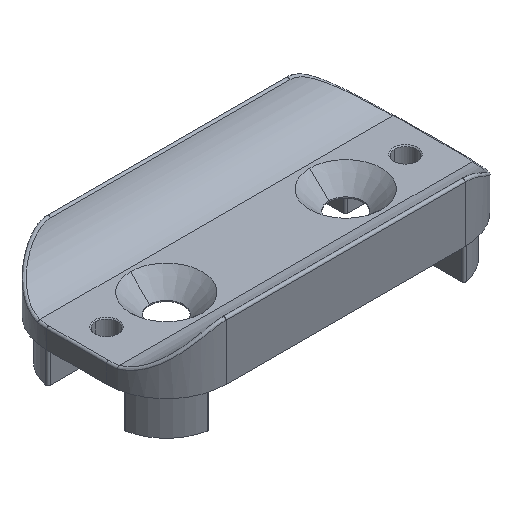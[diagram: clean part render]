
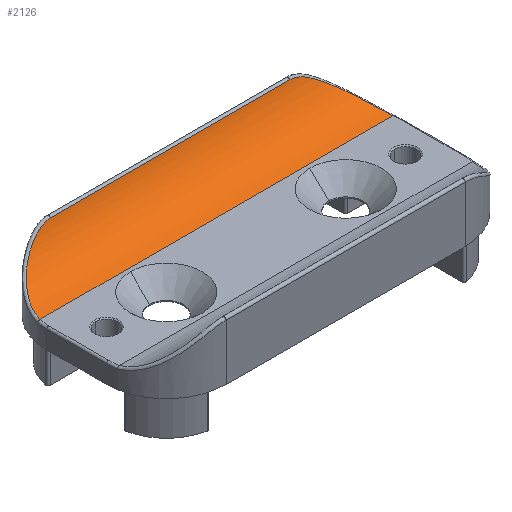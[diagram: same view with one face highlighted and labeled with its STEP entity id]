
A CAD part, isometric view. The second image highlights one B-rep face of the part: STEP entity #2126.
In plain terms, the highlighted cylindrical face has radius 15.2 mm (diameter 30.4 mm), a partial arc.
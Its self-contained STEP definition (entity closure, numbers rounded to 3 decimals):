
#218 = CARTESIAN_POINT ( 'NONE',  ( -67.5, 21.538, 14.172 ) ) ;
#219 = DIRECTION ( 'NONE',  ( -1., 0., 0. ) ) ;
#257 = AXIS2_PLACEMENT_3D ( 'NONE', #1313, #1315, #1319 ) ;
#522 = CARTESIAN_POINT ( 'NONE',  ( 7.5, 21.538, 14.172 ) ) ;
#524 = CARTESIAN_POINT ( 'NONE',  ( -52.5, 21.538, 14.172 ) ) ;
#540 = CARTESIAN_POINT ( 'NONE',  ( -66.776, 9.958, 5. ) ) ;
#590 = CARTESIAN_POINT ( 'NONE',  ( 21.776, 9.958, 5. ) ) ;
#886 = FACE_OUTER_BOUND ( 'NONE', #1553, .T. ) ;
#923 = VECTOR ( 'NONE', #219, 1000. ) ;
#925 = LINE ( 'NONE', #218, #923 ) ;
#1039 = VECTOR ( 'NONE', #2871, 1000. ) ;
#1047 = LINE ( 'NONE', #2827, #1039 ) ;
#1313 = CARTESIAN_POINT ( 'NONE',  ( -67.5, 7.5, 20. ) ) ;
#1315 = DIRECTION ( 'NONE',  ( 1., 0., 0. ) ) ;
#1319 = DIRECTION ( 'NONE',  ( 0., 0., -1. ) ) ;
#1349 = B_SPLINE_CURVE_WITH_KNOTS ( 'NONE', 3,
 ( #2314, #2302, #2295, #2294, #2293, #2291, #2290, #2289, #2288, #2287, #2286, #2284, #2283, #2282, #2281, #2280, #2278, #2277, #2276, #2274, #2273, #2272, #2271, #2269, #2268, #2266, #2264, #2263, #2262, #2261 ),
 .UNSPECIFIED., .F., .F.,
 ( 4, 2, 2, 2, 2, 2, 2, 2, 2, 2, 2, 2, 2, 2, 4 ),
 ( 0., 0.001, 0.002, 0.003, 0.004, 0.006, 0.007, 0.008, 0.011, 0.012, 0.014, 0.017, 0.018, 0.019, 0.022 ),
 .UNSPECIFIED. ) ;
#1354 = B_SPLINE_CURVE_WITH_KNOTS ( 'NONE', 3,
 ( #2820, #2819, #2813, #2812, #2811, #2810, #2809, #2808, #2807, #2806, #2805, #2804, #2803, #2802, #2801, #2800, #2799, #2798, #2797, #2796, #2795, #2794, #2793, #2792, #2791, #2790, #2789, #2788, #2787, #2786, #2785, #2784 ),
 .UNSPECIFIED., .F., .F.,
 ( 4, 2, 2, 2, 2, 2, 2, 2, 2, 2, 2, 2, 2, 2, 2, 4 ),
 ( 0., 0.001, 0.003, 0.004, 0.006, 0.008, 0.01, 0.011, 0.014, 0.015, 0.017, 0.018, 0.02, 0.02, 0.021, 0.022 ),
 .UNSPECIFIED. ) ;
#1553 = EDGE_LOOP ( 'NONE', ( #2462, #2457, #2459, #2461 ) ) ;
#1705 = VERTEX_POINT ( 'NONE', #590 ) ;
#1770 = VERTEX_POINT ( 'NONE', #540 ) ;
#1801 = VERTEX_POINT ( 'NONE', #522 ) ;
#1804 = VERTEX_POINT ( 'NONE', #524 ) ;
#2012 = EDGE_CURVE ( 'NONE', #1770, #1705, #1047, .T. ) ;
#2041 = EDGE_CURVE ( 'NONE', #1705, #1801, #1354, .T. ) ;
#2071 = EDGE_CURVE ( 'NONE', #1804, #1770, #1349, .T. ) ;
#2100 = EDGE_CURVE ( 'NONE', #1801, #1804, #925, .T. ) ;
#2126 = ADVANCED_FACE ( 'NONE', ( #886 ), #2724, .F. ) ;
#2261 = CARTESIAN_POINT ( 'NONE',  ( -66.776, 9.958, 5. ) ) ;
#2262 = CARTESIAN_POINT ( 'NONE',  ( -66.609, 10.866, 5.149 ) ) ;
#2263 = CARTESIAN_POINT ( 'NONE',  ( -66.358, 11.723, 5.373 ) ) ;
#2264 = CARTESIAN_POINT ( 'NONE',  ( -65.874, 12.942, 5.801 ) ) ;
#2266 = CARTESIAN_POINT ( 'NONE',  ( -65.694, 13.338, 5.959 ) ) ;
#2268 = CARTESIAN_POINT ( 'NONE',  ( -65.301, 14.108, 6.305 ) ) ;
#2269 = CARTESIAN_POINT ( 'NONE',  ( -65.089, 14.478, 6.491 ) ) ;
#2271 = CARTESIAN_POINT ( 'NONE',  ( -64.417, 15.54, 7.075 ) ) ;
#2272 = CARTESIAN_POINT ( 'NONE',  ( -63.921, 16.185, 7.503 ) ) ;
#2273 = CARTESIAN_POINT ( 'NONE',  ( -63.11, 17.076, 8.19 ) ) ;
#2274 = CARTESIAN_POINT ( 'NONE',  ( -62.828, 17.361, 8.427 ) ) ;
#2276 = CARTESIAN_POINT ( 'NONE',  ( -62.247, 17.901, 8.91 ) ) ;
#2277 = CARTESIAN_POINT ( 'NONE',  ( -61.949, 18.155, 9.154 ) ) ;
#2278 = CARTESIAN_POINT ( 'NONE',  ( -61.034, 18.875, 9.895 ) ) ;
#2280 = CARTESIAN_POINT ( 'NONE',  ( -60.394, 19.299, 10.398 ) ) ;
#2281 = CARTESIAN_POINT ( 'NONE',  ( -59.384, 19.861, 11.149 ) ) ;
#2282 = CARTESIAN_POINT ( 'NONE',  ( -59.039, 20.036, 11.398 ) ) ;
#2283 = CARTESIAN_POINT ( 'NONE',  ( -58.328, 20.36, 11.892 ) ) ;
#2284 = CARTESIAN_POINT ( 'NONE',  ( -57.96, 20.511, 12.136 ) ) ;
#2286 = CARTESIAN_POINT ( 'NONE',  ( -57.209, 20.783, 12.606 ) ) ;
#2287 = CARTESIAN_POINT ( 'NONE',  ( -56.824, 20.905, 12.831 ) ) ;
#2288 = CARTESIAN_POINT ( 'NONE',  ( -56.031, 21.122, 13.251 ) ) ;
#2289 = CARTESIAN_POINT ( 'NONE',  ( -55.622, 21.215, 13.445 ) ) ;
#2290 = CARTESIAN_POINT ( 'NONE',  ( -54.983, 21.333, 13.698 ) ) ;
#2291 = CARTESIAN_POINT ( 'NONE',  ( -54.764, 21.368, 13.776 ) ) ;
#2293 = CARTESIAN_POINT ( 'NONE',  ( -54.324, 21.428, 13.913 ) ) ;
#2294 = CARTESIAN_POINT ( 'NONE',  ( -54.102, 21.454, 13.973 ) ) ;
#2295 = CARTESIAN_POINT ( 'NONE',  ( -53.428, 21.516, 14.118 ) ) ;
#2302 = CARTESIAN_POINT ( 'NONE',  ( -52.97, 21.538, 14.172 ) ) ;
#2314 = CARTESIAN_POINT ( 'NONE',  ( -52.5, 21.538, 14.172 ) ) ;
#2457 = ORIENTED_EDGE ( 'NONE', *, *, #2071, .T. ) ;
#2459 = ORIENTED_EDGE ( 'NONE', *, *, #2012, .T. ) ;
#2461 = ORIENTED_EDGE ( 'NONE', *, *, #2041, .T. ) ;
#2462 = ORIENTED_EDGE ( 'NONE', *, *, #2100, .T. ) ;
#2724 = CYLINDRICAL_SURFACE ( 'NONE', #257, 15.2 ) ;
#2784 = CARTESIAN_POINT ( 'NONE',  ( 7.5, 21.538, 14.172 ) ) ;
#2785 = CARTESIAN_POINT ( 'NONE',  ( 7.97, 21.538, 14.172 ) ) ;
#2786 = CARTESIAN_POINT ( 'NONE',  ( 8.428, 21.516, 14.118 ) ) ;
#2787 = CARTESIAN_POINT ( 'NONE',  ( 9.101, 21.454, 13.973 ) ) ;
#2788 = CARTESIAN_POINT ( 'NONE',  ( 9.323, 21.428, 13.914 ) ) ;
#2789 = CARTESIAN_POINT ( 'NONE',  ( 9.763, 21.368, 13.777 ) ) ;
#2790 = CARTESIAN_POINT ( 'NONE',  ( 9.981, 21.333, 13.699 ) ) ;
#2791 = CARTESIAN_POINT ( 'NONE',  ( 10.62, 21.216, 13.446 ) ) ;
#2792 = CARTESIAN_POINT ( 'NONE',  ( 11.029, 21.122, 13.252 ) ) ;
#2793 = CARTESIAN_POINT ( 'NONE',  ( 11.822, 20.906, 12.833 ) ) ;
#2794 = CARTESIAN_POINT ( 'NONE',  ( 12.206, 20.784, 12.607 ) ) ;
#2795 = CARTESIAN_POINT ( 'NONE',  ( 12.958, 20.512, 12.138 ) ) ;
#2796 = CARTESIAN_POINT ( 'NONE',  ( 13.325, 20.361, 11.894 ) ) ;
#2797 = CARTESIAN_POINT ( 'NONE',  ( 14.036, 20.037, 11.401 ) ) ;
#2798 = CARTESIAN_POINT ( 'NONE',  ( 14.381, 19.863, 11.151 ) ) ;
#2799 = CARTESIAN_POINT ( 'NONE',  ( 15.39, 19.302, 10.4 ) ) ;
#2800 = CARTESIAN_POINT ( 'NONE',  ( 16.03, 18.878, 9.898 ) ) ;
#2801 = CARTESIAN_POINT ( 'NONE',  ( 16.945, 18.158, 9.158 ) ) ;
#2802 = CARTESIAN_POINT ( 'NONE',  ( 17.243, 17.904, 8.913 ) ) ;
#2803 = CARTESIAN_POINT ( 'NONE',  ( 17.824, 17.365, 8.431 ) ) ;
#2804 = CARTESIAN_POINT ( 'NONE',  ( 18.106, 17.081, 8.194 ) ) ;
#2805 = CARTESIAN_POINT ( 'NONE',  ( 18.916, 16.191, 7.507 ) ) ;
#2806 = CARTESIAN_POINT ( 'NONE',  ( 19.413, 15.546, 7.079 ) ) ;
#2807 = CARTESIAN_POINT ( 'NONE',  ( 20.084, 14.486, 6.494 ) ) ;
#2808 = CARTESIAN_POINT ( 'NONE',  ( 20.297, 14.116, 6.309 ) ) ;
#2809 = CARTESIAN_POINT ( 'NONE',  ( 20.69, 13.346, 5.963 ) ) ;
#2810 = CARTESIAN_POINT ( 'NONE',  ( 20.87, 12.951, 5.804 ) ) ;
#2811 = CARTESIAN_POINT ( 'NONE',  ( 21.194, 12.137, 5.518 ) ) ;
#2812 = CARTESIAN_POINT ( 'NONE',  ( 21.338, 11.718, 5.39 ) ) ;
#2813 = CARTESIAN_POINT ( 'NONE',  ( 21.587, 10.857, 5.169 ) ) ;
#2819 = CARTESIAN_POINT ( 'NONE',  ( 21.693, 10.412, 5.074 ) ) ;
#2820 = CARTESIAN_POINT ( 'NONE',  ( 21.776, 9.958, 5. ) ) ;
#2827 = CARTESIAN_POINT ( 'NONE',  ( -67.5, 9.958, 5. ) ) ;
#2871 = DIRECTION ( 'NONE',  ( 1., 0., 0. ) ) ;
